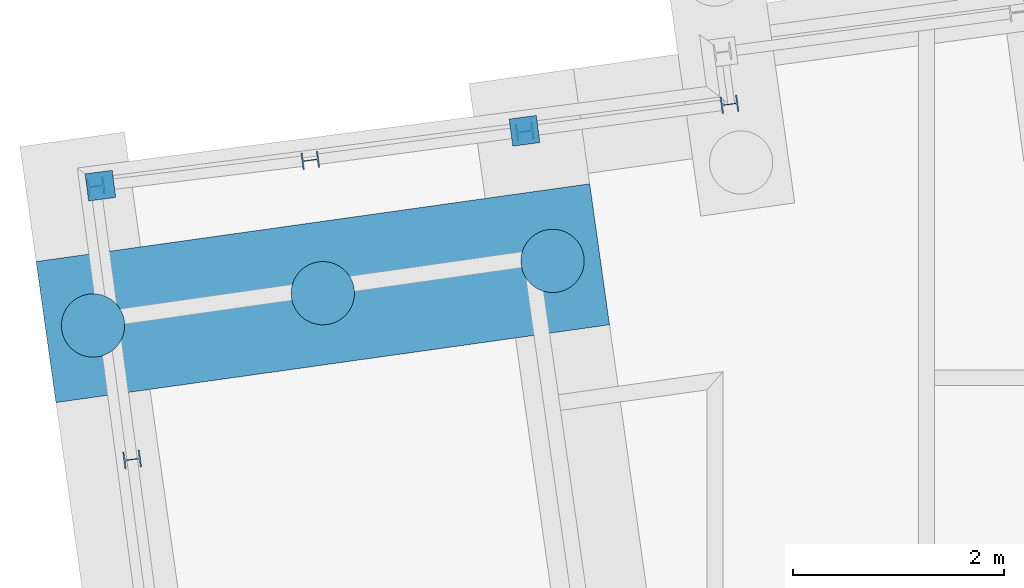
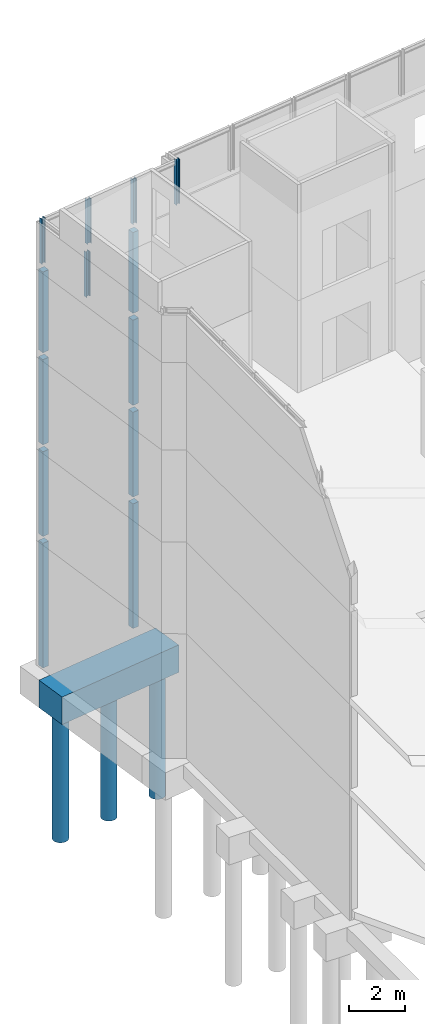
# One storey, part 20 of 82: 17 columns.
"""IFC2X3 building model written with IfcOpenShell, lengths in millimetres."""

from ifc_helpers import new_model, si_unit, frame, frame_2d, origin_with_axes, place, context, subcontext, project, spatial, polyline, rectangle, circle, i_section, outline, extrude, material, type_object, element, save


model = new_model("IFC2X3")

# Units and contexts
model_context = context("Model", 3, precision=1e-05, world=origin_with_axes())
body_context = subcontext(model_context, "Body", "Model", "MODEL_VIEW")
ifc_project = project(units=[si_unit("LENGTHUNIT", "METRE", prefix="MILLI"), si_unit("AREAUNIT", "SQUARE_METRE"), si_unit("VOLUMEUNIT", "CUBIC_METRE"), si_unit("MASSUNIT", "GRAM", prefix="KILO"), si_unit("TIMEUNIT", "SECOND"), si_unit("PLANEANGLEUNIT", "RADIAN"), si_unit("SOLIDANGLEUNIT", "STERADIAN"), si_unit("THERMODYNAMICTEMPERATUREUNIT", "DEGREE_CELSIUS"), si_unit("LUMINOUSINTENSITYUNIT", "LUMEN")], contexts=[model_context])

# Site, building, storey
site_placement = place(None, origin_with_axes())
site = spatial("IfcSite", under=ifc_project, at=site_placement, Name="Undefined", CompositionType="ELEMENT")
building_placement = place(site_placement, origin_with_axes())
building = spatial("IfcBuilding", under=site, at=building_placement, Name="Undefined", CompositionType="ELEMENT")
storey_placement = place(building_placement, origin_with_axes())
storey = spatial("IfcBuildingStorey", under=building, at=storey_placement, Name="Undefined", CompositionType="ELEMENT", Elevation=0.0)

# Columns
ifc_material_1 = material(Name="CONCRETE/C25/30")
column_type_1 = type_object("IfcColumnType", Name="260*260", PredefinedType="NOTDEFINED")
column_1_placement = place(storey_placement, frame((2309.64692814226, 26658.1749353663, 13330.0), z_axis=(0.0, 0.0, 1.0), x_axis=(1.0, 0.0, 0.0)))
element("IfcColumn", 1, at=column_1_placement, inside=storey, type_object=column_type_1, material=ifc_material_1, Name="POTEAU", ObjectType="260*260", context=body_context, shape_type="SweptSolid", body=[
    extrude(rectangle(XDim=260.0, YDim=260.0, at=frame_2d((5.17284206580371e-08, 4.49290382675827e-10), x_axis=(1.0, 0.0))), frame((0.0, 0.0, 3529.99999999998), z_axis=(0.0, -6.50000002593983e-08, -0.999999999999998), x_axis=(-0.132255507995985, 0.991215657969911, 0.0)), (0.0, 0.0, 1.0), 3530.0),
])
column_2_placement = place(storey_placement, frame((-1711.95792061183, 26138.299916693, 13330.0), z_axis=(0.0, 0.0, 1.0), x_axis=(1.0, 0.0, 0.0)))
element("IfcColumn", 2, at=column_2_placement, inside=storey, type_object=column_type_1, material=ifc_material_1, Name="POTEAU", ObjectType="260*260", context=body_context, shape_type="SweptSolid", body=[
    extrude(rectangle(XDim=260.0, YDim=260.0, at=frame_2d((5.17284206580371e-08, 4.49290382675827e-10), x_axis=(1.0, 0.0))), frame((0.0, 0.0, 3529.99999999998), z_axis=(0.0, -6.50000002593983e-08, -0.999999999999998), x_axis=(-0.128329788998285, 0.991731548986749, 0.0)), (0.0, 0.0, 1.0), 3530.0),
])
column_3_placement = place(storey_placement, frame((2309.64692814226, 26658.1749353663, 9305.0), z_axis=(0.0, 0.0, 1.0), x_axis=(1.0, 0.0, 0.0)))
element("IfcColumn", 3, at=column_3_placement, inside=storey, type_object=column_type_1, material=ifc_material_1, Name="POTEAU", ObjectType="260*260", context=body_context, shape_type="SweptSolid", body=[
    extrude(rectangle(XDim=260.0, YDim=260.0, at=frame_2d((5.17284206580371e-08, 4.49290382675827e-10), x_axis=(1.0, 0.0))), frame((0.0, 0.0, 3725.0), z_axis=(0.0, -6.50000002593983e-08, -0.999999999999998), x_axis=(-0.132255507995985, 0.991215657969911, 0.0)), (0.0, 0.0, 1.0), 3725.0),
])
column_4_placement = place(storey_placement, frame((-1711.95792061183, 26138.299916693, 9305.0), z_axis=(0.0, 0.0, 1.0), x_axis=(1.0, 0.0, 0.0)))
element("IfcColumn", 4, at=column_4_placement, inside=storey, type_object=column_type_1, material=ifc_material_1, Name="POTEAU", ObjectType="260*260", context=body_context, shape_type="SweptSolid", body=[
    extrude(rectangle(XDim=260.0, YDim=260.0, at=frame_2d((5.17284206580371e-08, 4.49290382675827e-10), x_axis=(1.0, 0.0))), frame((0.0, 0.0, 3725.0), z_axis=(0.0, -6.50000002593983e-08, -0.999999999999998), x_axis=(-0.128329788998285, 0.991731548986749, 0.0)), (0.0, 0.0, 1.0), 3725.0),
])
column_5_placement = place(storey_placement, frame((2309.64692814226, 26658.1749353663, 5300.0), z_axis=(0.0, 0.0, 1.0), x_axis=(1.0, 0.0, 0.0)))
element("IfcColumn", 5, at=column_5_placement, inside=storey, type_object=column_type_1, material=ifc_material_1, Name="POTEAU", ObjectType="260*260", context=body_context, shape_type="SweptSolid", body=[
    extrude(rectangle(XDim=260.0, YDim=260.0, at=frame_2d((5.17284206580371e-08, 4.49290382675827e-10), x_axis=(1.0, 0.0))), frame((0.0, 0.0, 3705.00000000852), z_axis=(0.0, -6.50000002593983e-08, -0.999999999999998), x_axis=(-0.132255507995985, 0.991215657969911, 0.0)), (0.0, 0.0, 1.0), 3705.0),
])
column_6_placement = place(storey_placement, frame((-1711.95792061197, 26138.2999166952, 5300.0), z_axis=(0.0, 0.0, 1.0), x_axis=(1.0, 0.0, 0.0)))
element("IfcColumn", 6, at=column_6_placement, inside=storey, type_object=column_type_1, material=ifc_material_1, Name="POTEAU", ObjectType="260*260", context=body_context, shape_type="SweptSolid", body=[
    extrude(rectangle(XDim=260.0, YDim=260.0, at=frame_2d((5.17284206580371e-08, 4.49290382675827e-10), x_axis=(1.0, 0.0))), frame((0.0, 0.0, 3705.00000000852), z_axis=(0.0, -6.50000002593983e-08, -0.999999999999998), x_axis=(-0.128329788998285, 0.991731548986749, 0.0)), (0.0, 0.0, 1.0), 3705.0),
])
column_7_placement = place(storey_placement, frame((2309.64692814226, 26658.1749353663, -449.99951172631), z_axis=(0.0, 0.0, 1.0), x_axis=(1.0, 0.0, 0.0)))
element("IfcColumn", 7, at=column_7_placement, inside=storey, type_object=column_type_1, material=ifc_material_1, Name="POTEAU", ObjectType="260*260", context=body_context, shape_type="SweptSolid", body=[
    extrude(rectangle(XDim=260.0, YDim=260.0, at=frame_2d((5.17284206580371e-08, 4.49290382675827e-10), x_axis=(1.0, 0.0))), frame((0.0, 0.0, 5449.9995117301), z_axis=(0.0, -6.50000002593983e-08, -0.999999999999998), x_axis=(-0.132255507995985, 0.991215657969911, 0.0)), (0.0, 0.0, 1.0), 5450.0),
])
column_8_placement = place(storey_placement, frame((-1711.95792061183, 26138.299916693, -449.999511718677), z_axis=(0.0, 0.0, 1.0), x_axis=(1.0, 0.0, 0.0)))
element("IfcColumn", 8, at=column_8_placement, inside=storey, type_object=column_type_1, material=ifc_material_1, Name="POTEAU", ObjectType="260*260", context=body_context, shape_type="SweptSolid", body=[
    extrude(rectangle(XDim=260.0, YDim=260.0, at=frame_2d((5.17284206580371e-08, 4.49290382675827e-10), x_axis=(1.0, 0.0))), frame((0.0, 0.0, 5449.9995117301), z_axis=(0.0, -6.50000002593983e-08, -0.999999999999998), x_axis=(-0.128329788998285, 0.991731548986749, 0.0)), (0.0, 0.0, 1.0), 5450.0),
])
ifc_material_2 = material(Name="STEEL/S275JR")
column_type_2 = type_object("IfcColumnType", Name="HEB160", PredefinedType="NOTDEFINED")
column_9_placement = place(storey_placement, frame((278.649872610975, 26379.3449556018, 17160.0), z_axis=(0.0, 0.0, 1.0), x_axis=(1.0, 0.0, 0.0)))
element("IfcColumn", 9, at=column_9_placement, inside=storey, type_object=column_type_2, material=ifc_material_2, Name="POTEAU", ObjectType="HEB160", context=body_context, shape_type="SweptSolid", body=[
    extrude(i_section(OverallWidth=160.0, OverallDepth=160.0, WebThickness=8.0, FlangeThickness=13.0, FilletRadius=15.0, at=frame_2d((5.17284206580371e-08, 4.49290382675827e-10), x_axis=(1.0, 0.0))), frame((0.0, 0.0, 1965.0), z_axis=(0.0, -6.50000002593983e-08, -0.999999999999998), x_axis=(0.128329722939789, -0.991731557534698, 0.0)), (0.0, 0.0, 1.0), 1965.0),
])
column_10_placement = place(storey_placement, frame((4253.40261969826, 26909.6927837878, 17160.0), z_axis=(0.0, 0.0, 1.0), x_axis=(1.0, 0.0, 0.0)))
element("IfcColumn", 10, at=column_10_placement, inside=storey, type_object=column_type_2, material=ifc_material_2, Name="POTEAU", ObjectType="HEB160", context=body_context, shape_type="SweptSolid", body=[
    extrude(i_section(OverallWidth=160.0, OverallDepth=160.0, WebThickness=8.0, FlangeThickness=13.0, FilletRadius=15.0, at=frame_2d((5.17284206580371e-08, 4.49290382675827e-10), x_axis=(1.0, 0.0))), frame((0.0, 0.0, 1965.0), z_axis=(0.0, -6.50000002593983e-08, -0.999999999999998), x_axis=(0.132256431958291, -0.991215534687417, 0.0)), (0.0, 0.0, 1.0), 1965.0),
])
column_11_placement = place(storey_placement, frame((2310.63974389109, 26650.4699115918, 17160.0), z_axis=(0.0, 0.0, 1.0), x_axis=(1.0, 0.0, 0.0)))
element("IfcColumn", 11, at=column_11_placement, inside=storey, type_object=column_type_2, material=ifc_material_2, Name="POTEAU", ObjectType="HEB160", context=body_context, shape_type="SweptSolid", body=[
    extrude(i_section(OverallWidth=160.0, OverallDepth=160.0, WebThickness=8.0, FlangeThickness=13.0, FilletRadius=15.0, at=frame_2d((5.17284206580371e-08, 4.49290382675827e-10), x_axis=(1.0, 0.0))), frame((0.0, 0.0, 1965.0), z_axis=(0.0, -6.50000002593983e-08, -0.999999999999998), x_axis=(0.128329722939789, -0.991731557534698, 0.0)), (0.0, 0.0, 1.0), 1965.0),
])
for number, where, z_axis, x_axis, name in (
    (12, (-1756.51428539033, 26132.0100769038, 17160.0), (0.0, 0.0, 1.0), (1.0, 0.0, 0.0), "POTEAU"),
    (13, (-1410.95587561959, 23542.1526686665, 17160.0), (0.0, 0.0, 1.0), (1.0, 0.0, 0.0), "POTEAU"),
):
    element("IfcColumn", number, at=place(storey_placement, frame(where, z_axis=z_axis, x_axis=x_axis)), inside=storey, type_object=column_type_2, material=ifc_material_2, Name=name, ObjectType="HEB160", context=body_context, shape_type="SweptSolid", body=[
        extrude(i_section(OverallWidth=160.0, OverallDepth=160.0, WebThickness=8.0, FlangeThickness=13.0, FilletRadius=15.0, at=frame_2d((5.17284206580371e-08, 4.49290382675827e-10), x_axis=(1.0, 0.0))), frame((0.0, 0.0, 1965.0), z_axis=(0.0, -6.50000002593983e-08, -0.999999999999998), x_axis=(0.132171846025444, -0.991226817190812, 0.0)), (0.0, 0.0, 1.0), 1965.0),
    ])
ifc_material_3 = material(Name="CONCRETE/C30/37")
column_type_3 = type_object("IfcColumnType", Name="1200*1350", PredefinedType="NOTDEFINED")
column_12_placement = place(storey_placement, frame((-2321.00424777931, 25418.3341146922, -1050.00146578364), z_axis=(0.0, 0.0, 1.0), x_axis=(0.13917310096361, -0.990268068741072, 0.0)))
element("IfcColumn", 14, at=column_12_placement, inside=storey, type_object=column_type_3, material=ifc_material_3, Name="SEMELLE", ObjectType="1200*1350", context=body_context, shape_type="SweptSolid", body=[
    extrude(outline(polyline([(5.17284206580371e-08, 4.49290382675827e-10), (1349.99572754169, -7.94079824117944e-09), (1349.99987791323, 5299.99999999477), (-7.73813590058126e-05, 5300.0004882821), (5.17284206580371e-08, 4.49290382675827e-10)])), frame((0.0, 0.0, -600.0), z_axis=(0.0, 0.0, 1.0), x_axis=(1.0, 0.0, 0.0)), (0.0, 0.0, 1.0), 1200.0),
])
column_type_4 = type_object("IfcColumnType", Name="D600", PredefinedType="NOTDEFINED")
column_13_placement = place(storey_placement, frame((397.147942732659, 25118.7130107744, -7175.0), z_axis=(0.0, 0.0, 1.0), x_axis=(1.0, 0.0, 0.0)))
element("IfcColumn", 15, at=column_13_placement, inside=storey, type_object=column_type_4, material=ifc_material_1, Name="PIEU", ObjectType="D600", context=body_context, shape_type="SweptSolid", body=[
    extrude(circle(Radius=300.0, at=frame_2d((5.17284206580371e-08, 4.49290382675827e-10), x_axis=(1.0, 0.0))), frame((0.0, 0.0, 5750.0), z_axis=(0.0, -6.50000002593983e-08, -0.999999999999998), x_axis=(-0.99121555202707, -0.132256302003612, 0.0)), (0.0, 0.0, 1.0), 5750.0),
])
column_14_placement = place(storey_placement, frame((-1781.44207098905, 24812.5331791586, -7175.0), z_axis=(0.0, 0.0, 1.0), x_axis=(1.0, 0.0, 0.0)))
element("IfcColumn", 16, at=column_14_placement, inside=storey, type_object=column_type_4, material=ifc_material_1, Name="PIEU", ObjectType="D600", context=body_context, shape_type="SweptSolid", body=[
    extrude(circle(Radius=300.0, at=frame_2d((5.17284206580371e-08, 4.49290382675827e-10), x_axis=(1.0, 0.0))), frame((0.0, 0.0, 5750.0), z_axis=(0.0, -6.50000002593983e-08, -0.999999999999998), x_axis=(0.991215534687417, 0.132256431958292, 0.0)), (0.0, 0.0, 1.0), 5750.0),
])
column_15_placement = place(storey_placement, frame((2575.73795666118, 25424.8928406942, -7175.0), z_axis=(0.0, 0.0, 1.0), x_axis=(1.0, 0.0, 0.0)))
element("IfcColumn", 17, at=column_15_placement, inside=storey, type_object=column_type_4, material=ifc_material_1, Name="PIEU", ObjectType="D600", context=body_context, shape_type="SweptSolid", body=[
    extrude(circle(Radius=300.0, at=frame_2d((5.17284206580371e-08, 4.49290382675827e-10), x_axis=(1.0, 0.0))), frame((0.0, 0.0, 5750.0), z_axis=(0.0, -6.50000002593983e-08, -0.999999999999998), x_axis=(-0.99121555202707, -0.132256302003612, 0.0)), (0.0, 0.0, 1.0), 5750.0),
])

save(model, "model.ifc")
